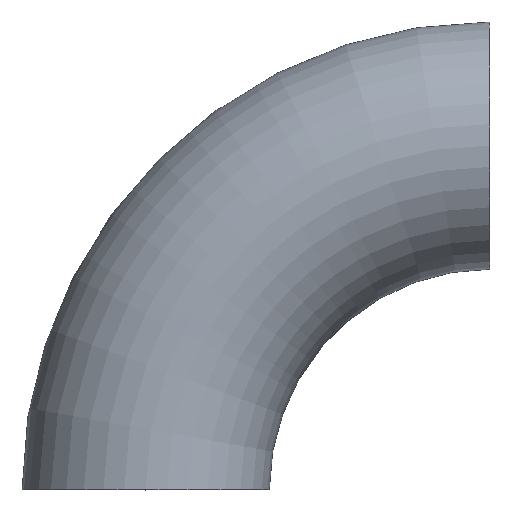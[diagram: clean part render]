
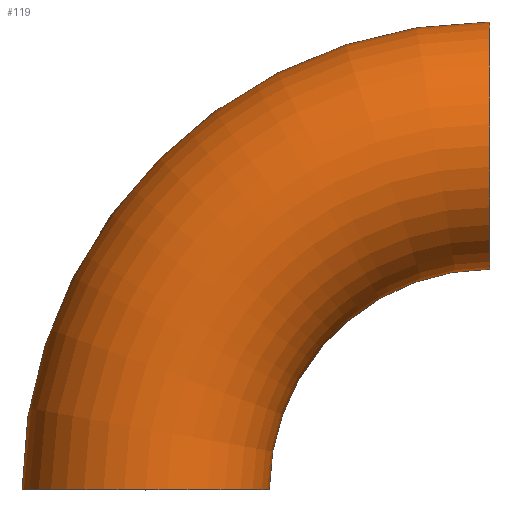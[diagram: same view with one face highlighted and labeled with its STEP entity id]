
A CAD part, top view. The second image highlights one B-rep face of the part: STEP entity #119.
In plain terms, the highlighted toroidal (fillet/blend) face has major radius 305 mm and minor radius 109.55 mm.
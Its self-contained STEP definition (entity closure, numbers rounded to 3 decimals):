
#7 = CARTESIAN_POINT ( 'NONE',  ( 305., 305., 0. ) ) ;
#11 = AXIS2_PLACEMENT_3D ( 'NONE', #206, #168, #106 ) ;
#15 = EDGE_CURVE ( 'NONE', #37, #161, #42, .T. ) ;
#18 = VERTEX_POINT ( 'NONE', #40 ) ;
#20 = DIRECTION ( 'NONE',  ( 0., 0., 1. ) ) ;
#25 = ORIENTED_EDGE ( 'NONE', *, *, #15, .T. ) ;
#37 = VERTEX_POINT ( 'NONE', #122 ) ;
#39 = EDGE_CURVE ( 'NONE', #179, #37, #112, .T. ) ;
#40 = CARTESIAN_POINT ( 'NONE',  ( 305., 195.45, 0. ) ) ;
#42 = CIRCLE ( 'NONE', #83, 109.55 ) ;
#44 = DIRECTION ( 'NONE',  ( 0., 0., 1. ) ) ;
#45 = DIRECTION ( 'NONE',  ( 0., 1., 0. ) ) ;
#48 = DIRECTION ( 'NONE',  ( 0., 0., 1. ) ) ;
#50 = AXIS2_PLACEMENT_3D ( 'NONE', #66, #20, #223 ) ;
#66 = CARTESIAN_POINT ( 'NONE',  ( 305., 0., 0. ) ) ;
#80 = TOROIDAL_SURFACE ( 'NONE', #11, 305., 109.55 ) ;
#82 = CARTESIAN_POINT ( 'NONE',  ( 0., 0., 0. ) ) ;
#83 = AXIS2_PLACEMENT_3D ( 'NONE', #82, #45, #219 ) ;
#101 = FACE_OUTER_BOUND ( 'NONE', #131, .T. ) ;
#106 = DIRECTION ( 'NONE',  ( 1., 0., 0. ) ) ;
#110 = DIRECTION ( 'NONE',  ( 1., 0., 0. ) ) ;
#112 = CIRCLE ( 'NONE', #159, 414.55 ) ;
#119 = ADVANCED_FACE ( 'NONE', ( #101 ), #80, .T. ) ;
#122 = CARTESIAN_POINT ( 'NONE',  ( -109.55, 0., 0. ) ) ;
#125 = DIRECTION ( 'NONE',  ( 1., 0., 0. ) ) ;
#131 = EDGE_LOOP ( 'NONE', ( #167, #202, #25, #233 ) ) ;
#132 = CARTESIAN_POINT ( 'NONE',  ( 305., 414.55, 0. ) ) ;
#159 = AXIS2_PLACEMENT_3D ( 'NONE', #203, #44, #125 ) ;
#161 = VERTEX_POINT ( 'NONE', #207 ) ;
#167 = ORIENTED_EDGE ( 'NONE', *, *, #218, .F. ) ;
#168 = DIRECTION ( 'NONE',  ( 0., 0., 1. ) ) ;
#179 = VERTEX_POINT ( 'NONE', #132 ) ;
#202 = ORIENTED_EDGE ( 'NONE', *, *, #39, .T. ) ;
#203 = CARTESIAN_POINT ( 'NONE',  ( 305., 0., 0. ) ) ;
#206 = CARTESIAN_POINT ( 'NONE',  ( 305., 0., 0. ) ) ;
#207 = CARTESIAN_POINT ( 'NONE',  ( 109.55, 0., 0. ) ) ;
#214 = CIRCLE ( 'NONE', #220, 109.55 ) ;
#215 = EDGE_CURVE ( 'NONE', #18, #161, #240, .T. ) ;
#218 = EDGE_CURVE ( 'NONE', #179, #18, #214, .T. ) ;
#219 = DIRECTION ( 'NONE',  ( 0., 0., 1. ) ) ;
#220 = AXIS2_PLACEMENT_3D ( 'NONE', #7, #110, #48 ) ;
#223 = DIRECTION ( 'NONE',  ( 1., 0., 0. ) ) ;
#233 = ORIENTED_EDGE ( 'NONE', *, *, #215, .F. ) ;
#240 = CIRCLE ( 'NONE', #50, 195.45 ) ;
